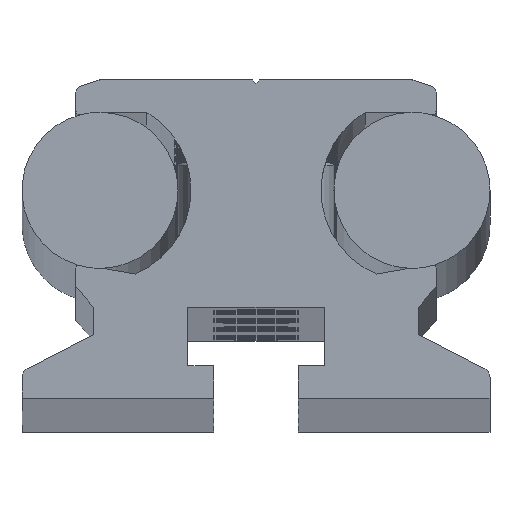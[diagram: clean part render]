
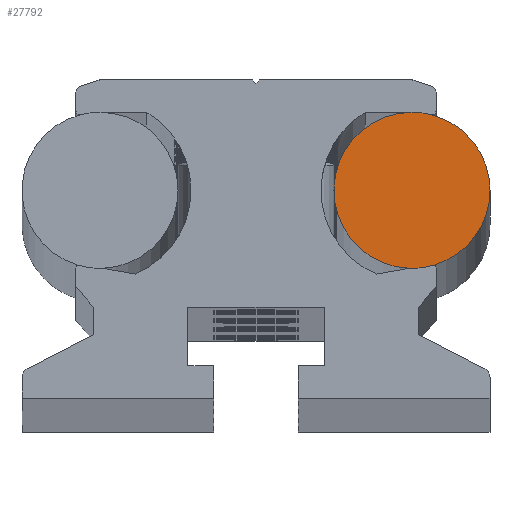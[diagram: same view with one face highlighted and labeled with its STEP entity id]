
A CAD part, top view. The second image highlights one B-rep face of the part: STEP entity #27792.
In plain terms, the highlighted planar face has unit normal (0, 0, 1).
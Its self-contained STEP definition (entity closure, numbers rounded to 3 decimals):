
#2394 = CARTESIAN_POINT ( 'NONE',  ( 12., 16., -0.5 ) ) ;
#2401 = DIRECTION ( 'NONE',  ( 0., 0., 1. ) ) ;
#2402 = DIRECTION ( 'NONE',  ( 1., 0., 0. ) ) ;
#2403 = CARTESIAN_POINT ( 'NONE',  ( 12., 16., -0.5 ) ) ;
#2410 = DIRECTION ( 'NONE',  ( 0., 0., 1. ) ) ;
#2411 = DIRECTION ( 'NONE',  ( 1., 0., 0. ) ) ;
#3143 = CIRCLE ( 'NONE', #5173, 6. ) ;
#3146 = CIRCLE ( 'NONE', #5176, 6. ) ;
#4208 = CARTESIAN_POINT ( 'NONE',  ( 12., 16., -0.5 ) ) ;
#4212 = PLANE ( 'NONE',  #5079 ) ;
#4215 = DIRECTION ( 'NONE',  ( 0., 0., 1. ) ) ;
#4216 = DIRECTION ( 'NONE',  ( 1., 0., 0. ) ) ;
#5079 = AXIS2_PLACEMENT_3D ( 'NONE', #4208, #4215, #4216 ) ;
#5173 = AXIS2_PLACEMENT_3D ( 'NONE', #2394, #2401, #2402 ) ;
#5176 = AXIS2_PLACEMENT_3D ( 'NONE', #2403, #2410, #2411 ) ;
#5289 = CARTESIAN_POINT ( 'NONE',  ( 13.516, 21.805, -0.5 ) ) ;
#5316 = CARTESIAN_POINT ( 'NONE',  ( 12., 22., -0.5 ) ) ;
#5318 = CARTESIAN_POINT ( 'NONE',  ( 11.819, 10.003, -0.5 ) ) ;
#7356 = CARTESIAN_POINT ( 'NONE',  ( 18., 16., -0.5 ) ) ;
#7393 = CARTESIAN_POINT ( 'NONE',  ( 13.719, 10.251, -0.5 ) ) ;
#9506 = FACE_OUTER_BOUND ( 'NONE', #22593, .T. ) ;
#11630 = CARTESIAN_POINT ( 'NONE',  ( 12., 16., -0.5 ) ) ;
#11642 = DIRECTION ( 'NONE',  ( 0., 0., -1. ) ) ;
#11643 = DIRECTION ( 'NONE',  ( 1., 0., 0. ) ) ;
#14342 = CIRCLE ( 'NONE', #28490, 6. ) ;
#14360 = CIRCLE ( 'NONE', #28498, 6. ) ;
#14995 = EDGE_CURVE ( 'NONE', #25965, #25986, #22275, .T. ) ;
#17762 = CARTESIAN_POINT ( 'NONE',  ( 12., 16., -0.5 ) ) ;
#17763 = DIRECTION ( 'NONE',  ( 0., 0., 1. ) ) ;
#17764 = DIRECTION ( 'NONE',  ( 1., 0., 0. ) ) ;
#17786 = CARTESIAN_POINT ( 'NONE',  ( 12., 16., -0.5 ) ) ;
#17796 = DIRECTION ( 'NONE',  ( 0., 0., -1. ) ) ;
#17797 = DIRECTION ( 'NONE',  ( 1., 0., 0. ) ) ;
#18817 = EDGE_CURVE ( 'NONE', #26678, #26679, #14342, .T. ) ;
#18829 = EDGE_CURVE ( 'NONE', #26662, #25965, #14360, .T. ) ;
#22275 = CIRCLE ( 'NONE', #28279, 6. ) ;
#22593 = EDGE_LOOP ( 'NONE', ( #24691, #24693, #24695, #24697, #24699 ) ) ;
#24691 = ORIENTED_EDGE ( 'NONE', *, *, #27942, .T. ) ;
#24693 = ORIENTED_EDGE ( 'NONE', *, *, #18817, .T. ) ;
#24695 = ORIENTED_EDGE ( 'NONE', *, *, #27945, .T. ) ;
#24697 = ORIENTED_EDGE ( 'NONE', *, *, #14995, .F. ) ;
#24699 = ORIENTED_EDGE ( 'NONE', *, *, #18829, .F. ) ;
#25965 = VERTEX_POINT ( 'NONE', #7356 ) ;
#25986 = VERTEX_POINT ( 'NONE', #7393 ) ;
#26662 = VERTEX_POINT ( 'NONE', #5289 ) ;
#26678 = VERTEX_POINT ( 'NONE', #5316 ) ;
#26679 = VERTEX_POINT ( 'NONE', #5318 ) ;
#27792 = ADVANCED_FACE ( 'NONE', ( #9506 ), #4212, .T. ) ;
#27942 = EDGE_CURVE ( 'NONE', #26662, #26678, #3143, .T. ) ;
#27945 = EDGE_CURVE ( 'NONE', #26679, #25986, #3146, .T. ) ;
#28279 = AXIS2_PLACEMENT_3D ( 'NONE', #11630, #11642, #11643 ) ;
#28490 = AXIS2_PLACEMENT_3D ( 'NONE', #17762, #17763, #17764 ) ;
#28498 = AXIS2_PLACEMENT_3D ( 'NONE', #17786, #17796, #17797 ) ;
